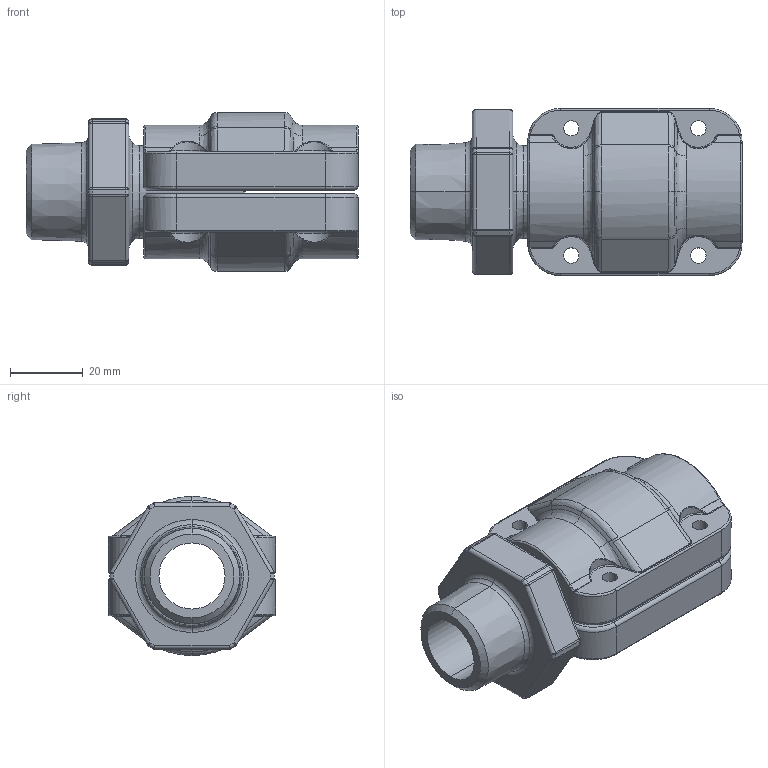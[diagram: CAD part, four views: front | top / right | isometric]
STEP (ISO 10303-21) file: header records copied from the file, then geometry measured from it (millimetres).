
FILE_DESCRIPTION((''),'2;1');
FILE_NAME('AU15211799_ASM_2_ASM','2017-05-15T',('Administrator'),(''),'PRO/ENGINEER BY PARAMETRIC TECHNOLOGY CORPORATION, 2009360','PRO/ENGINEER BY PARAMETRIC TECHNOLOGY CORPORATION, 2009360','');
FILE_SCHEMA(('AUTOMOTIVE_DESIGN_CC2 { 1 2 10303 214 -1 1 5 2 }'));
Length unit declared in the file: millimetre
Products named in the file (5): AU15211700_1; 201520020000_23_1; 201520020001_10_1; 2015200200_ASM_1_ASM; AU15211799_ASM_2_ASM
Assembly tree (4 placements, depth 3):
  AU15211799_ASM_2_ASM
    AU15211700_1
    2015200200_ASM_1_ASM
      201520020000_23_1
      201520020001_10_1
Bounding box: 91.41 x 46 x 43.8 mm (x, y, z)
Volume: 76034.4 mm3; surface area: 28371.7 mm2
Topology: 3 solids, 3 shells, 412 faces, 962 edges, 526 vertices
Faces by surface type: bspline 144, cylinder 130, torus 64, plane 38, sphere 32, cone 4
Entity records: 19435 total; most frequent: CARTESIAN_POINT 8319, ORIENTED_EDGE 1860, DIRECTION 1526, PRESENTATION_STYLE_ASSIGNMENT 933, STYLED_ITEM 933, CURVE_STYLE 930, EDGE_CURVE 930, AXIS2_PLACEMENT_3D 659
